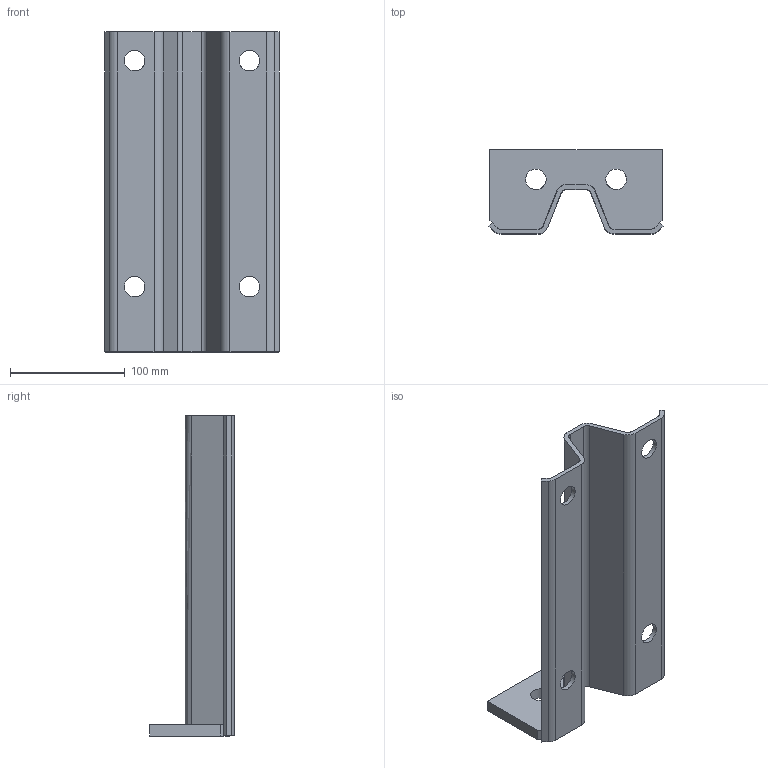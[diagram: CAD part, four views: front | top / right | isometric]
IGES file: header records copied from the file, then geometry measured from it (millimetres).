
Global section: file name: ZB300W70; native system: Autodesk RealDWG; preprocessor: Autodesk Translation Framework DWG producer (atf_dwg_producer); organization: unknown; date: 20230703.111959; units: centimetre
Bounding box: 151.72 x 74 x 279 mm (x, y, z)
Volume: 302449.1 mm3; surface area: 136001.8 mm2
Topology: 1 solids, 1 shells, 54 faces, 164 edges, 108 vertices
Faces by surface type: bspline 54
